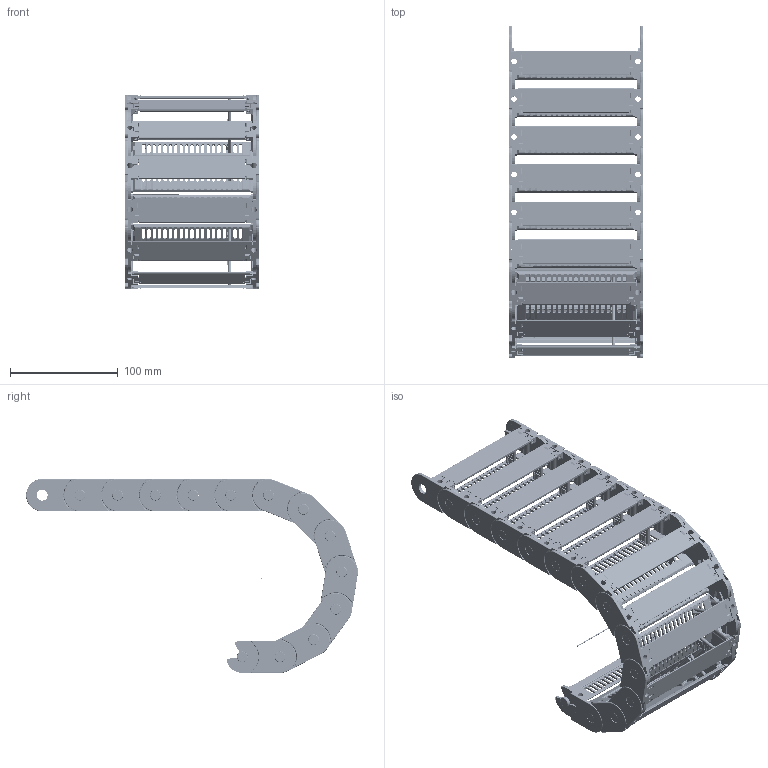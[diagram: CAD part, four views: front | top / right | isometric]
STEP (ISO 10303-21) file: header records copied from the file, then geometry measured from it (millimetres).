
FILE_DESCRIPTION((''),'2;1');
FILE_NAME('C:\Uebbing\PARAMETERKETTEN\KOLIBRI\Kol_30_125_1\Kol 30_125_1_R75.stp','2012-03-05T12:40:28',('Uebbing'),(''),'Autodesk Inventor 10','Autodesk Inventor 10','');
FILE_SCHEMA(('AUTOMOTIVE_DESIGN { 1 0 10303 214 1 1 1 1 }'));
Length unit declared in the file: millimetre
Products named in the file (6): KOLIBRI 30_125_1_PARAMETRISCH; Achse; Kol_30_125_1; PZ 30 Stecksteg; Kol 30_125_1 Lasche; Kol_30_125_0_Klappsteg
Assembly tree (17 placements, depth 3):
  KOLIBRI 30_125_1_PARAMETRISCH
    Achse
    Kol_30_125_1  x13
      PZ 30 Stecksteg
      Kol 30_125_1 Lasche
      Kol_30_125_0_Klappsteg
Bounding box: 125 x 307.93 x 180 mm (x, y, z)
Volume: 292919.2 mm3; surface area: 295971.7 mm2
Topology: 40 solids, 40 shells, 10143 faces, 28526 edges, 18541 vertices
Faces by surface type: plane 5046, bspline 2418, cylinder 2250, torus 312, cone 78, sphere 39
Full cylindrical faces by diameter (mm): 1 x1, 1.166 x13, 2.048 x13, 2.8 x78, 5.1 x13, 10 x13, 10.1 x13
Entity records: 28219 total; most frequent: CARTESIAN_POINT 8080, ORIENTED_EDGE 4324, DIRECTION 3962, EDGE_CURVE 2162, VECTOR 1442, LINE 1442, VERTEX_POINT 1424, AXIS2_PLACEMENT_3D 1260
